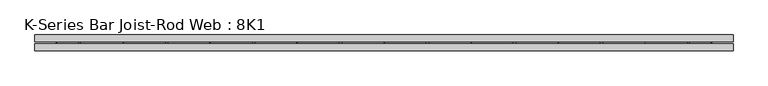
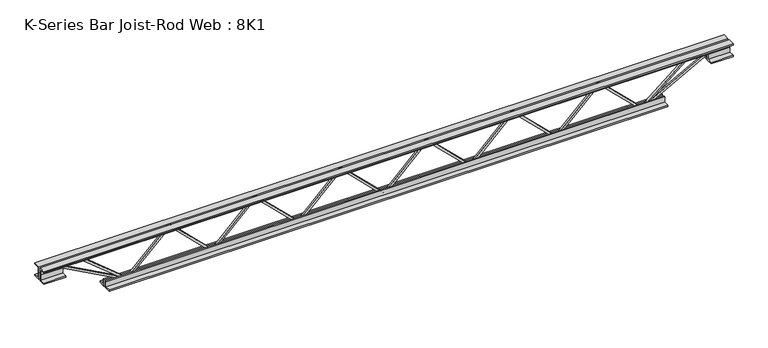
"""IFC4 building model written with IfcOpenShell, lengths in millimetres: beam geometry, K-Series Bar Joist-Rod Web : 8K1."""

from ifc_helpers import new_model, si_unit, frame, origin, place, context, project, spatial, polyline, outline, extrude, source, transform, mapped, element, save


def k_series_bar_joist_rod_web_8k1_ddfd0a0b(model_context):
    return source(origin(), model_context, "Body", "SweptSolid", [
        extrude(outline(polyline([(-90.4875, 401.8896924), (-100.0125, 401.8896924), (-100.0125, 407.0077855), (90.4875, 601.6026317), (90.4875, 604.0664455), (-100.0125, 798.6612917), (-100.0125, 803.7793848), (-90.4875, 803.7793848), (-90.4875, 802.5474779), (100.0125, 607.9526317), (100.0125, 597.7164455), (-90.4875, 403.1215993), (-90.4875, 401.8896924)])), frame((0.0, -4.7625, 0.0), z_axis=(0.0, 1.0, 0.0), x_axis=(0.0, 0.0, 1.0)), (0.0, 0.0, 1.0), 9.525),
        extrude(outline(polyline([(-90.4875, 0.0), (-100.0125, 0.0), (-100.0125, 5.1180931), (90.4875, 199.7129393), (90.4875, 202.1767531), (-100.0125, 396.7715993), (-100.0125, 401.8896924), (-90.4875, 401.8896924), (-90.4875, 400.6577855), (100.0125, 206.0629393), (100.0125, 195.8267531), (-90.4875, 1.2319069), (-90.4875, 0.0)])), frame((0.0, -4.7625, 0.0), z_axis=(0.0, 1.0, 0.0), x_axis=(0.0, 0.0, 1.0)), (0.0, 0.0, 1.0), 9.525),
        extrude(outline(polyline([(-90.4875, -401.8896924), (-100.0125, -401.8896924), (-100.0125, -396.7715993), (90.4875, -202.1767531), (90.4875, -199.7129393), (-100.0125, -5.1180931), (-100.0125, 0.0), (-90.4875, 0.0), (-90.4875, -1.2319069), (100.0125, -195.8267531), (100.0125, -206.0629393), (-90.4875, -400.6577855), (-90.4875, -401.8896924)])), frame((0.0, -4.7625, 0.0), z_axis=(0.0, 1.0, 0.0), x_axis=(0.0, 0.0, 1.0)), (0.0, 0.0, 1.0), 9.525),
        extrude(outline(polyline([(-90.4875, -803.7793848), (-100.0125, -803.7793848), (-100.0125, -798.6612917), (90.4875, -604.0664455), (90.4875, -601.6026317), (-100.0125, -407.0077855), (-100.0125, -401.8896924), (-90.4875, -401.8896924), (-90.4875, -403.1215993), (100.0125, -597.7164455), (100.0125, -607.9526317), (-90.4875, -802.5474779), (-90.4875, -803.7793848)])), frame((0.0, -4.7625, 0.0), z_axis=(0.0, 1.0, 0.0), x_axis=(0.0, 0.0, 1.0)), (0.0, 0.0, 1.0), 9.525),
        extrude(outline(polyline([(-90.4875, 803.7793848), (-100.0125, 803.7793848), (-100.0125, 808.8974779), (90.4875, 1003.4923241), (90.4875, 1005.9561379), (-100.0125, 1200.5509841), (-100.0125, 1205.6690772), (-90.4875, 1205.6690772), (-90.4875, 1204.4371703), (100.0125, 1009.8423241), (100.0125, 999.6061379), (-90.4875, 805.0112917), (-90.4875, 803.7793848)])), frame((0.0, -4.7625, 0.0), z_axis=(0.0, 1.0, 0.0), x_axis=(0.0, 0.0, 1.0)), (0.0, 0.0, 1.0), 9.525),
        extrude(outline(polyline([(-90.4875, -1205.6690772), (-100.0125, -1205.6690772), (-100.0125, -1200.5509841), (90.4875, -1005.9561379), (90.4875, -1003.4923241), (-100.0125, -808.8974779), (-100.0125, -803.7793848), (-90.4875, -803.7793848), (-90.4875, -805.0112917), (100.0125, -999.6061379), (100.0125, -1009.8423241), (-90.4875, -1204.4371703), (-90.4875, -1205.6690772)])), frame((0.0, -4.7625, 0.0), z_axis=(0.0, 1.0, 0.0), x_axis=(0.0, 0.0, 1.0)), (0.0, 0.0, 1.0), 9.525),
        extrude(outline(polyline([(4.7625, 101.6), (36.5125, 101.6), (36.5125, 95.25), (11.1125, 95.25), (11.1125, 69.85), (4.7625, 69.85), (4.7625, 101.6)])), frame((-1612.0690772, 0.0, 0.0), z_axis=(1.0, 0.0, 0.0), x_axis=(0.0, 1.0, 0.0)), (0.0, 0.0, 1.0), 3224.1381544),
        extrude(outline(polyline([(-4.7625, 101.6), (-4.7625, 69.85), (-11.1125, 69.85), (-11.1125, 95.25), (-36.5125, 95.25), (-36.5125, 101.6), (-4.7625, 101.6)])), frame((-1612.0690772, 0.0, 0.0), z_axis=(1.0, 0.0, 0.0), x_axis=(0.0, 1.0, 0.0)), (0.0, 0.0, 1.0), 3224.1381544),
        extrude(outline(polyline([(-4.7625, 38.1), (-36.5125, 38.1), (-36.5125, 44.45), (-11.1125, 44.45), (-11.1125, 69.85), (-4.7625, 69.85), (-4.7625, 38.1)])), frame((-1612.0690772, 0.0, 0.0), z_axis=(1.0, 0.0, 0.0), x_axis=(0.0, 1.0, 0.0)), (0.0, 0.0, 1.0), 101.6),
        extrude(outline(polyline([(36.5125, 38.1), (4.7625, 38.1), (4.7625, 69.85), (11.1125, 69.85), (11.1125, 44.45), (36.5125, 44.45), (36.5125, 38.1)])), frame((-1612.0690772, 0.0, 0.0), z_axis=(1.0, 0.0, 0.0), x_axis=(0.0, 1.0, 0.0)), (0.0, 0.0, 1.0), 101.6),
        extrude(outline(polyline([(4.7625, 38.1), (4.7625, 69.85), (11.1125, 69.85), (11.1125, 44.45), (36.5125, 44.45), (36.5125, 38.1), (4.7625, 38.1)])), frame((1510.4690772, 0.0, 0.0), z_axis=(1.0, 0.0, 0.0), x_axis=(0.0, 1.0, 0.0)), (0.0, 0.0, 1.0), 101.6),
        extrude(outline(polyline([(-4.7625, 38.1), (-36.5125, 38.1), (-36.5125, 44.45), (-11.1125, 44.45), (-11.1125, 69.85), (-4.7625, 69.85), (-4.7625, 38.1)])), frame((1510.4690772, 0.0, 0.0), z_axis=(1.0, 0.0, 0.0), x_axis=(0.0, 1.0, 0.0)), (0.0, 0.0, 1.0), 101.6),
        extrude(outline(polyline([(4.7625, -101.6), (4.7625, -69.85), (11.1125, -69.85), (11.1125, -95.25), (36.5125, -95.25), (36.5125, -101.6), (4.7625, -101.6)])), frame((-1307.2690772, 0.0, 0.0), z_axis=(1.0, 0.0, 0.0), x_axis=(0.0, 1.0, 0.0)), (0.0, 0.0, 1.0), 2614.5381544),
        extrude(outline(polyline([(-4.7625, -101.6), (-36.5125, -101.6), (-36.5125, -95.25), (-11.1125, -95.25), (-11.1125, -69.85), (-4.7625, -69.85), (-4.7625, -101.6)])), frame((-1307.2690772, 0.0, 0.0), z_axis=(1.0, 0.0, 0.0), x_axis=(0.0, 1.0, 0.0)), (0.0, 0.0, 1.0), 2614.5381544),
        extrude(outline(polyline([(0.0, -9.525), (0.0, 0.0), (346.6425392, 0.0), (346.6425392, -9.525), (0.0, -9.525)])), frame((-1512.7373757, 4.7625, 65.662372), z_axis=(0.47628314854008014, 0.0, 0.8792919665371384), x_axis=(0.8792919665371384, 0.0, -0.47628314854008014)), (0.0, 0.0, 1.0), 9.525),
        extrude(outline(polyline([(0.0, -9.525), (0.0, 0.0), (260.0708388, 0.0), (260.0708388, -9.525), (0.0, -9.525)])), frame((-1409.6372872, 4.7625, 66.170234), z_axis=(0.6348270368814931, 0.0, 0.7726542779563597), x_axis=(0.7726542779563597, 0.0, -0.6348270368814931)), (0.0, 0.0, 1.0), 9.525),
        extrude(outline(polyline([(0.0, -9.525), (0.0, 0.0), (346.6425392, 0.0), (346.6425392, -9.525), (0.0, -9.525)])), frame((1512.7373757, -4.7625, 65.662372), z_axis=(-0.47628314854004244, 0.0, 0.8792919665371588), x_axis=(-0.8792919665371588, 0.0, -0.47628314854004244)), (0.0, 0.0, 1.0), 9.525),
        extrude(outline(polyline([(0.0, -9.525), (0.0, 0.0), (260.0708388, 0.0), (260.0708388, -9.525), (0.0, -9.525)])), frame((1409.6372872, -4.7625, 66.170234), z_axis=(-0.6348270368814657, 0.0, 0.7726542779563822), x_axis=(-0.7726542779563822, 0.0, -0.6348270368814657)), (0.0, 0.0, 1.0), 9.525),
    ])


if __name__ == "__main__":
    model = new_model("IFC4")
    model_context = context("Model", 3, world=origin())
    ifc_project = project(units=[si_unit("LENGTHUNIT", "METRE", prefix="MILLI")], contexts=[model_context])
    site = spatial("IfcSite", under=ifc_project)
    building = spatial("IfcBuilding", under=site)
    placement = place(None, origin())
    k_series_bar_joist_rod_web_8k1_shape = k_series_bar_joist_rod_web_8k1_ddfd0a0b(model_context)
    element("IfcBeam", 1, ObjectType="K-Series Bar Joist-Rod Web : 8K1", at=placement, inside=building, context=model_context, shape_type="MappedRepresentation", body=[
        mapped(k_series_bar_joist_rod_web_8k1_shape, transform((0.0, 0.0, 0.0), x_axis=(1.0, 0.0, 0.0), y_axis=(0.0, 1.0, 0.0), z_axis=(0.0, 0.0, 1.0))),
    ])
    save(model, "model.ifc")
